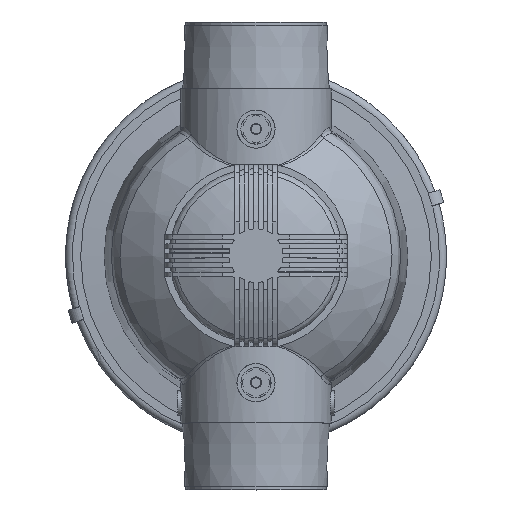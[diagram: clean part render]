
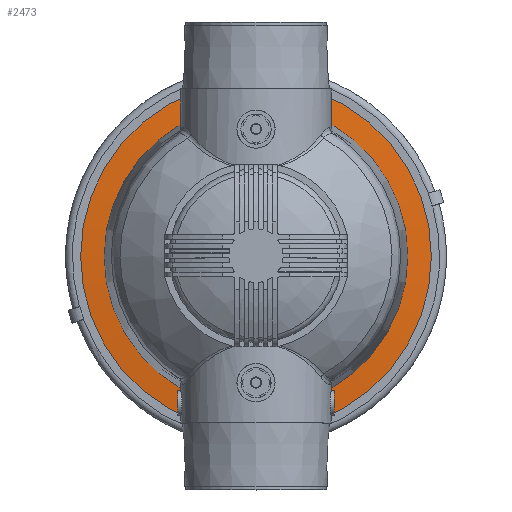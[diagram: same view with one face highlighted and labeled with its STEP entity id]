
A CAD part, top view. The second image highlights one B-rep face of the part: STEP entity #2473.
In plain terms, the highlighted conical face has half-angle 85 degrees and reference radius 105.704 mm.
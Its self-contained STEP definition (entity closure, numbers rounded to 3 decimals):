
#2473 = ADVANCED_FACE( 'Face124', ( #5109, #5110 ), #5111, .T. );
#5109 = FACE_OUTER_BOUND( '', #14399, .T. );
#5110 = FACE_BOUND( '', #14400, .T. );
#5111 = CONICAL_SURFACE( '', #14401, 105.704, 1.484 );
#14399 = EDGE_LOOP( '', ( #22599 ) );
#14400 = EDGE_LOOP( '', ( #22600 ) );
#14401 = AXIS2_PLACEMENT_3D( '', #22601, #22602, #22603 );
#22599 = ORIENTED_EDGE( '', *, *, #23644, .T. );
#22600 = ORIENTED_EDGE( '', *, *, #25195, .F. );
#22601 = CARTESIAN_POINT( '', ( 0., 0., 58.438 ) );
#22602 = DIRECTION( '', ( 0., 0., -1. ) );
#22603 = DIRECTION( '', ( 1., 0., 0. ) );
#23644 = EDGE_CURVE( 'Edge318', #26968, #26968, #26969, .F. );
#25195 = EDGE_CURVE( 'Edge322', #29506, #29506, #29507, .F. );
#26968 = VERTEX_POINT( '', #32009 );
#26969 = CIRCLE( '', #32010, 105. );
#29506 = VERTEX_POINT( '', #39480 );
#29507 = CIRCLE( '', #39481, 90.914 );
#32009 = CARTESIAN_POINT( '', ( 0., 105., 58.5 ) );
#32010 = AXIS2_PLACEMENT_3D( '', #44773, #44774, #44775 );
#39480 = CARTESIAN_POINT( '', ( 0., 90.914, 59.732 ) );
#39481 = AXIS2_PLACEMENT_3D( '', #46601, #46602, #46603 );
#44773 = CARTESIAN_POINT( '', ( 0., 0., 58.5 ) );
#44774 = DIRECTION( '', ( 0., 0., -1. ) );
#44775 = DIRECTION( '', ( 0., 1., 0. ) );
#46601 = CARTESIAN_POINT( '', ( 0., 0., 59.732 ) );
#46602 = DIRECTION( '', ( 0., 0., -1. ) );
#46603 = DIRECTION( '', ( 0., 1., 0. ) );
